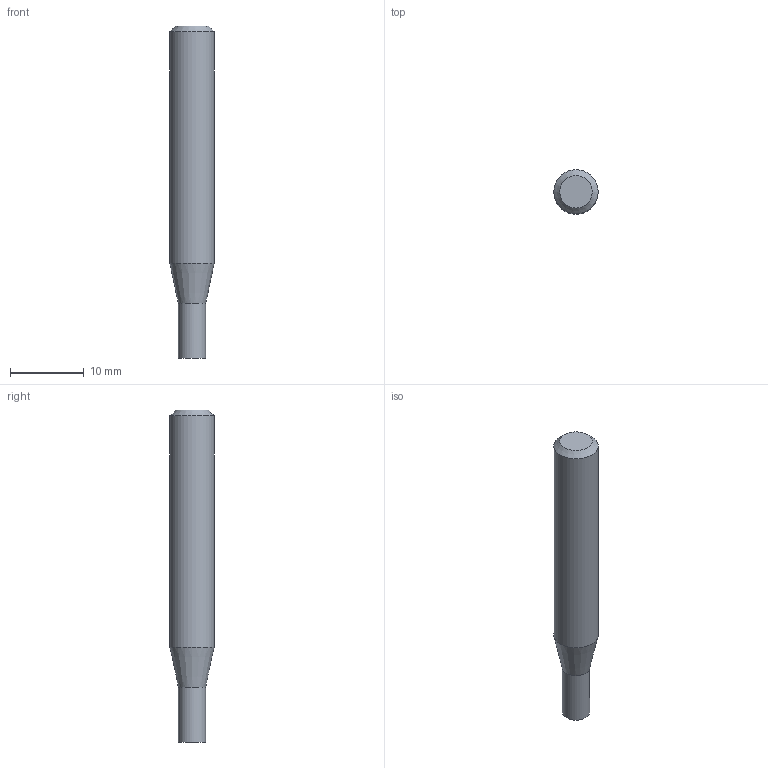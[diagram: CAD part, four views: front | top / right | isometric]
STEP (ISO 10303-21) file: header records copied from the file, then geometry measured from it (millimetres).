
FILE_DESCRIPTION((''),'2;1');
FILE_NAME('C:\Users\nsx150\AppData\Local\Temp\Mastercam 2021\E36A1X9CCL\TEMP.step','2023-04-21T15:12:49',(''),(''),'STEP Write','Mastercam 2021 ... CNC Software, Inc.','');
FILE_SCHEMA(('AUTOMOTIVE_DESIGN'));
Length unit declared in the file: millimetre
Products named in the file (1): None
Bounding box: 6 x 6 x 45 mm (x, y, z)
Volume: 1086 mm3; surface area: 827.9 mm2
Topology: 2 solids, 2 shells, 8 faces, 10 edges, 6 vertices
Faces by surface type: plane 4, cylinder 2, cone 2
Full cylindrical faces by diameter (mm): 3.7 x1, 6 x1
Entity records: 190 total; most frequent: DIRECTION 32, CARTESIAN_POINT 22, AXIS2_PLACEMENT_3D 16, ORIENTED_EDGE 12, EDGE_LOOP 12, STYLED_ITEM 11, ADVANCED_FACE 8, VERTEX_POINT 6
